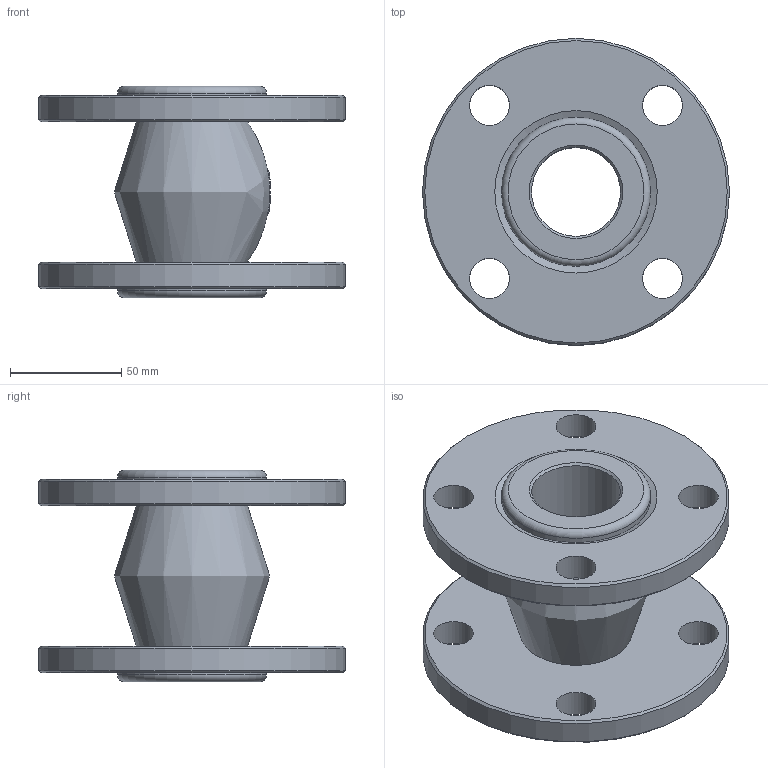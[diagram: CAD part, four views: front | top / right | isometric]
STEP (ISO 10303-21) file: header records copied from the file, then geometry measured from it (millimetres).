
FILE_DESCRIPTION(/* description */ ('D140-02172','CAx-IF Rec.Pracs.---Representation and Presentation of Product Manufacturing Information (PMI)---4.0---2014-10-13'),/* implementation_level */ '2;1');
FILE_NAME(/* name */ '',/* time_stamp */ '2026-04-30T11:16:42+03:00',/* author */ ('DN.RU'),/* organization */ ('DN.RU'),/* preprocessor_version */ 'ST-DEVELOPER v20',/* originating_system */ 'Autodesk Inventor 2025',/* authorisation */ '');
FILE_SCHEMA (('AP242_MANAGED_MODEL_BASED_3D_ENGINEERING_MIM_LF { 1 0 10303 442 1 1 4 }'));
Length unit declared in the file: millimetre
Products named in the file (1): CR-E25-F
Bounding box: 138 x 138 x 95 mm (x, y, z)
Volume: 441290.6 mm3; surface area: 91209.2 mm2
Topology: 1 solids, 1 shells, 100 faces, 267 edges, 176 vertices
Faces by surface type: plane 43, bspline 35, cylinder 13, cone 7, torus 2
Full cylindrical faces by diameter (mm): 18 x8, 40 x1, 67 x2, 138 x2
Entity records: 4198 total; most frequent: CARTESIAN_POINT 1559, ORIENTED_EDGE 534, DIRECTION 480, EDGE_CURVE 267, AXIS2_PLACEMENT_3D 200, VERTEX_POINT 176, EDGE_LOOP 125, CIRCLE 120
